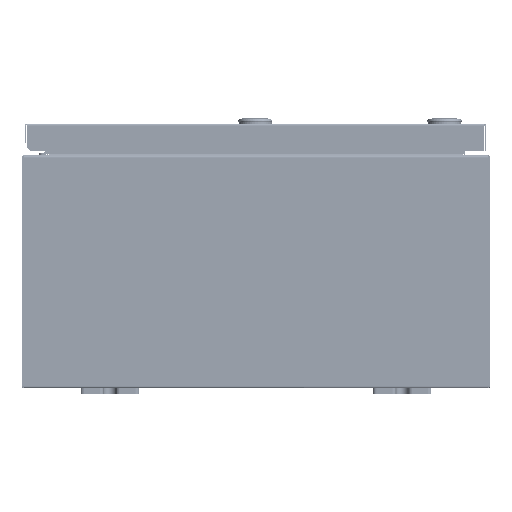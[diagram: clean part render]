
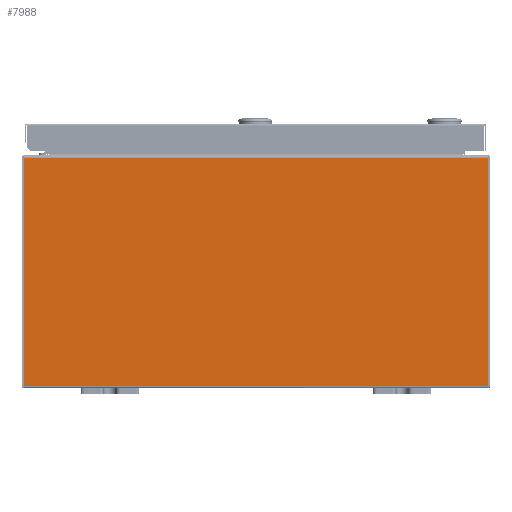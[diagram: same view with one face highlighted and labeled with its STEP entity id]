
A CAD part, front view. The second image highlights one B-rep face of the part: STEP entity #7988.
In plain terms, the highlighted planar face has unit normal (0, -1, 0).
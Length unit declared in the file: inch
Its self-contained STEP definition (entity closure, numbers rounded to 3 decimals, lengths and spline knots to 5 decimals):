
#2265=CARTESIAN_POINT('',(-7.925,-8.0,7.89491));
#2266=VERTEX_POINT('',#2265);
#2274=CARTESIAN_POINT('',(7.925,-8.,7.89491));
#2275=VERTEX_POINT('',#2274);
#2276=CARTESIAN_POINT('',(7.925,-8.,7.89491));
#2277=DIRECTION('',(-1.0,0.0,0.0));
#2278=VECTOR('',#2277,15.85);
#2279=LINE('',#2276,#2278);
#2280=EDGE_CURVE('',#2275,#2266,#2279,.T.);
#2313=CARTESIAN_POINT('',(-7.925,-8.,0.084));
#2314=VERTEX_POINT('',#2313);
#2323=CARTESIAN_POINT('',(-7.925,-8.0,0.084));
#2324=DIRECTION('',(0.0,0.0,1.0));
#2325=VECTOR('',#2324,7.81091);
#2326=LINE('',#2323,#2325);
#2327=EDGE_CURVE('',#2314,#2266,#2326,.T.);
#6719=CARTESIAN_POINT('',(7.925,-8.,0.084));
#6720=VERTEX_POINT('',#6719);
#6721=CARTESIAN_POINT('',(7.925,-8.,7.89491));
#6722=DIRECTION('',(0.0,0.0,-1.0));
#6723=VECTOR('',#6722,7.81091);
#6724=LINE('',#6721,#6723);
#6725=EDGE_CURVE('',#2275,#6720,#6724,.T.);
#7798=CARTESIAN_POINT('',(-7.925,-8.,0.084));
#7799=DIRECTION('',(1.0,0.0,0.0));
#7800=VECTOR('',#7799,15.85);
#7801=LINE('',#7798,#7800);
#7802=EDGE_CURVE('',#2314,#6720,#7801,.T.);
#7977=CARTESIAN_POINT('',(0.0,-8.,3.98946));
#7978=DIRECTION('',(0.0,1.0,0.0));
#7979=DIRECTION('',(0.0,0.0,1.0));
#7980=AXIS2_PLACEMENT_3D('',#7977,#7978,#7979);
#7981=PLANE('',#7980);
#7982=ORIENTED_EDGE('',*,*,#2280,.T.);
#7983=ORIENTED_EDGE('',*,*,#2327,.F.);
#7984=ORIENTED_EDGE('',*,*,#7802,.T.);
#7985=ORIENTED_EDGE('',*,*,#6725,.F.);
#7986=EDGE_LOOP('',(#7982,#7983,#7984,#7985));
#7987=FACE_OUTER_BOUND('',#7986,.T.);
#7988=ADVANCED_FACE('',(#7987),#7981,.F.);
